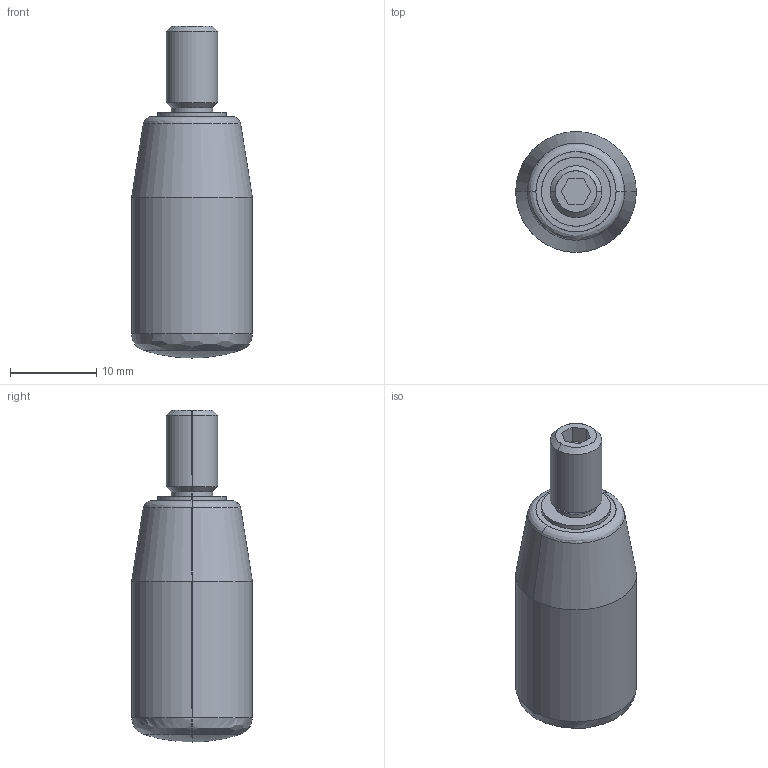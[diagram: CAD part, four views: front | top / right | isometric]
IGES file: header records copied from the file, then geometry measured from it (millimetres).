
Start section: SolidWorks IGES file using analytic representation for surfaces
Global section: file name: C:\HEMSIDA\cad\SLDPRT_2010\gn598\\gn598_28_m6.igs; native system: SolidWorks 2010; preprocessor: SolidWorks 2010; author: Administrator; date: 101001.151959; units: millimetre
Bounding box: 14 x 14 x 38.5 mm (x, y, z)
Surface area: 1584.7 mm2 (no closed solid volume)
Topology: 0 solids, 0 shells, 30 faces, 269 edges, 267 vertices
Faces by surface type: bspline 16, revolution 14
